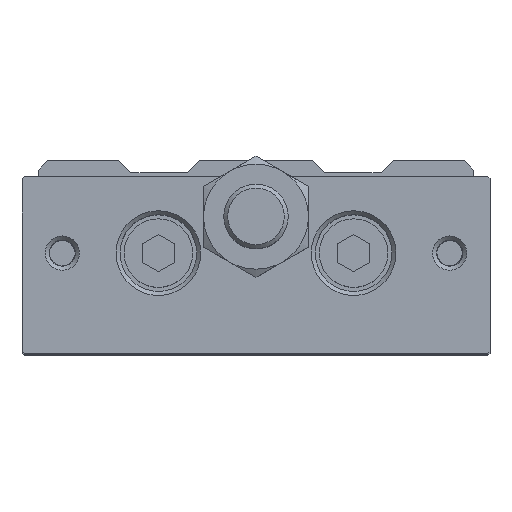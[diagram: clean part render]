
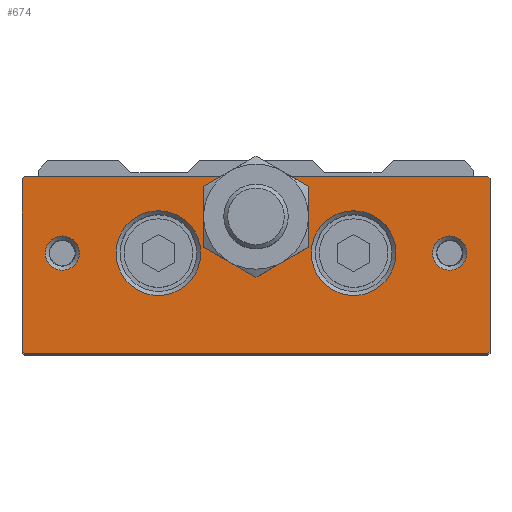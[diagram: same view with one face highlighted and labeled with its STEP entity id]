
A CAD part, top view. The second image highlights one B-rep face of the part: STEP entity #674.
In plain terms, the highlighted planar face has unit normal (0, 0, 1).
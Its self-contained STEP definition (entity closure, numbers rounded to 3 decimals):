
#455=CARTESIAN_POINT('',(-28.7,-13.,93.5));
#456=VERTEX_POINT('',#455);
#463=CARTESIAN_POINT('',(-29.,-12.7,93.5));
#464=VERTEX_POINT('',#463);
#465=CARTESIAN_POINT('',(-28.7,-13.,93.5));
#466=DIRECTION('',(-0.707,0.707,0.0));
#467=VECTOR('',#466,0.424);
#468=LINE('',#465,#467);
#469=EDGE_CURVE('',#456,#464,#468,.T.);
#486=CARTESIAN_POINT('',(-29.,8.7,93.5));
#487=VERTEX_POINT('',#486);
#488=CARTESIAN_POINT('',(-29.,8.7,93.5));
#489=DIRECTION('',(0.0,-1.0,0.0));
#490=VECTOR('',#489,21.4);
#491=LINE('',#488,#490);
#492=EDGE_CURVE('',#487,#464,#491,.T.);
#522=CARTESIAN_POINT('',(0.0,-13.,93.5));
#523=DIRECTION('',(0.0,0.0,1.0));
#524=DIRECTION('',(1.0,0.0,0.0));
#525=AXIS2_PLACEMENT_3D('',#522,#523,#524);
#526=PLANE('',#525);
#527=ORIENTED_EDGE('',*,*,#469,.F.);
#528=CARTESIAN_POINT('',(28.7,-13.,93.5));
#529=VERTEX_POINT('',#528);
#530=CARTESIAN_POINT('',(-28.7,-13.,93.5));
#531=DIRECTION('',(1.0,0.0,0.0));
#532=VECTOR('',#531,57.4);
#533=LINE('',#530,#532);
#534=EDGE_CURVE('',#456,#529,#533,.T.);
#535=ORIENTED_EDGE('',*,*,#534,.T.);
#536=CARTESIAN_POINT('',(29.,-12.7,93.5));
#537=VERTEX_POINT('',#536);
#538=CARTESIAN_POINT('',(29.,-12.7,93.5));
#539=DIRECTION('',(-0.707,-0.707,0.0));
#540=VECTOR('',#539,0.424);
#541=LINE('',#538,#540);
#542=EDGE_CURVE('',#537,#529,#541,.T.);
#543=ORIENTED_EDGE('',*,*,#542,.F.);
#544=CARTESIAN_POINT('',(29.,8.7,93.5));
#545=VERTEX_POINT('',#544);
#546=CARTESIAN_POINT('',(29.,-12.7,93.5));
#547=DIRECTION('',(0.0,1.0,0.0));
#548=VECTOR('',#547,21.4);
#549=LINE('',#546,#548);
#550=EDGE_CURVE('',#537,#545,#549,.T.);
#551=ORIENTED_EDGE('',*,*,#550,.T.);
#552=CARTESIAN_POINT('',(28.7,9.,93.5));
#553=VERTEX_POINT('',#552);
#554=CARTESIAN_POINT('',(28.7,9.,93.5));
#555=DIRECTION('',(0.707,-0.707,0.0));
#556=VECTOR('',#555,0.424);
#557=LINE('',#554,#556);
#558=EDGE_CURVE('',#553,#545,#557,.T.);
#559=ORIENTED_EDGE('',*,*,#558,.F.);
#560=CARTESIAN_POINT('',(4.153,9.,93.5));
#561=VERTEX_POINT('',#560);
#562=CARTESIAN_POINT('',(28.7,9.,93.5));
#563=DIRECTION('',(-1.0,0.0,0.0));
#564=VECTOR('',#563,24.547);
#565=LINE('',#562,#564);
#566=EDGE_CURVE('',#553,#561,#565,.T.);
#567=ORIENTED_EDGE('',*,*,#566,.T.);
#568=CARTESIAN_POINT('',(6.5,4.,93.5));
#569=VERTEX_POINT('',#568);
#570=CARTESIAN_POINT('',(0.0,4.,93.5));
#571=DIRECTION('',(0.0,0.0,1.0));
#572=DIRECTION('',(0.0,1.0,0.0));
#573=AXIS2_PLACEMENT_3D('',#570,#571,#572);
#574=CIRCLE('',#573,6.5);
#575=EDGE_CURVE('',#569,#561,#574,.T.);
#576=ORIENTED_EDGE('',*,*,#575,.F.);
#577=CARTESIAN_POINT('',(3.25,-1.629,93.5));
#578=VERTEX_POINT('',#577);
#579=CARTESIAN_POINT('',(0.0,4.,93.5));
#580=DIRECTION('',(0.0,0.0,1.0));
#581=DIRECTION('',(0.0,1.0,0.0));
#582=AXIS2_PLACEMENT_3D('',#579,#580,#581);
#583=CIRCLE('',#582,6.5);
#584=EDGE_CURVE('',#578,#569,#583,.T.);
#585=ORIENTED_EDGE('',*,*,#584,.F.);
#586=CARTESIAN_POINT('',(-3.25,-1.629,93.5));
#587=VERTEX_POINT('',#586);
#588=CARTESIAN_POINT('',(0.0,4.,93.5));
#589=DIRECTION('',(0.0,0.0,1.0));
#590=DIRECTION('',(0.0,1.0,0.0));
#591=AXIS2_PLACEMENT_3D('',#588,#589,#590);
#592=CIRCLE('',#591,6.5);
#593=EDGE_CURVE('',#587,#578,#592,.T.);
#594=ORIENTED_EDGE('',*,*,#593,.F.);
#595=CARTESIAN_POINT('',(-6.5,4.,93.5));
#596=VERTEX_POINT('',#595);
#597=CARTESIAN_POINT('',(0.0,4.,93.5));
#598=DIRECTION('',(0.0,0.0,1.0));
#599=DIRECTION('',(0.0,1.0,0.0));
#600=AXIS2_PLACEMENT_3D('',#597,#598,#599);
#601=CIRCLE('',#600,6.5);
#602=EDGE_CURVE('',#596,#587,#601,.T.);
#603=ORIENTED_EDGE('',*,*,#602,.F.);
#604=CARTESIAN_POINT('',(-4.153,9.,93.5));
#605=VERTEX_POINT('',#604);
#606=CARTESIAN_POINT('',(0.0,4.,93.5));
#607=DIRECTION('',(0.0,0.0,1.0));
#608=DIRECTION('',(0.0,1.0,0.0));
#609=AXIS2_PLACEMENT_3D('',#606,#607,#608);
#610=CIRCLE('',#609,6.5);
#611=EDGE_CURVE('',#605,#596,#610,.T.);
#612=ORIENTED_EDGE('',*,*,#611,.F.);
#613=CARTESIAN_POINT('',(-28.7,9.,93.5));
#614=VERTEX_POINT('',#613);
#615=CARTESIAN_POINT('',(-4.153,9.,93.5));
#616=DIRECTION('',(-1.0,0.0,0.0));
#617=VECTOR('',#616,24.547);
#618=LINE('',#615,#617);
#619=EDGE_CURVE('',#605,#614,#618,.T.);
#620=ORIENTED_EDGE('',*,*,#619,.T.);
#621=CARTESIAN_POINT('',(-29.,8.7,93.5));
#622=DIRECTION('',(0.707,0.707,0.0));
#623=VECTOR('',#622,0.424);
#624=LINE('',#621,#623);
#625=EDGE_CURVE('',#487,#614,#624,.T.);
#626=ORIENTED_EDGE('',*,*,#625,.F.);
#627=ORIENTED_EDGE('',*,*,#492,.T.);
#628=EDGE_LOOP('',(#527,#535,#543,#551,#559,#567,#576,#585,#594,#603,#612,#620,#626,#627));
#629=FACE_OUTER_BOUND('',#628,.T.);
#630=CARTESIAN_POINT('',(-21.879,-0.5,93.5));
#631=VERTEX_POINT('',#630);
#632=CARTESIAN_POINT('',(-24.,-0.5,93.5));
#633=DIRECTION('',(0.0,0.0,1.0));
#634=DIRECTION('',(-1.0,0.0,0.0));
#635=AXIS2_PLACEMENT_3D('',#632,#633,#634);
#636=CIRCLE('',#635,2.121);
#637=EDGE_CURVE('',#631,#631,#636,.T.);
#638=ORIENTED_EDGE('',*,*,#637,.F.);
#639=EDGE_LOOP('',(#638));
#640=FACE_BOUND('',#639,.T.);
#641=CARTESIAN_POINT('',(26.121,-0.5,93.5));
#642=VERTEX_POINT('',#641);
#643=CARTESIAN_POINT('',(24.,-0.5,93.5));
#644=DIRECTION('',(0.0,0.0,1.0));
#645=DIRECTION('',(-1.0,0.0,0.0));
#646=AXIS2_PLACEMENT_3D('',#643,#644,#645);
#647=CIRCLE('',#646,2.121);
#648=EDGE_CURVE('',#642,#642,#647,.T.);
#649=ORIENTED_EDGE('',*,*,#648,.F.);
#650=EDGE_LOOP('',(#649));
#651=FACE_BOUND('',#650,.T.);
#652=CARTESIAN_POINT('',(-6.85,-0.5,93.5));
#653=VERTEX_POINT('',#652);
#654=CARTESIAN_POINT('',(-12.1,-0.5,93.5));
#655=DIRECTION('',(0.0,0.0,1.0));
#656=DIRECTION('',(-1.0,0.0,0.0));
#657=AXIS2_PLACEMENT_3D('',#654,#655,#656);
#658=CIRCLE('',#657,5.25);
#659=EDGE_CURVE('',#653,#653,#658,.T.);
#660=ORIENTED_EDGE('',*,*,#659,.F.);
#661=EDGE_LOOP('',(#660));
#662=FACE_BOUND('',#661,.T.);
#663=CARTESIAN_POINT('',(17.35,-0.5,93.5));
#664=VERTEX_POINT('',#663);
#665=CARTESIAN_POINT('',(12.1,-0.5,93.5));
#666=DIRECTION('',(0.0,0.0,1.0));
#667=DIRECTION('',(-1.0,0.0,0.0));
#668=AXIS2_PLACEMENT_3D('',#665,#666,#667);
#669=CIRCLE('',#668,5.25);
#670=EDGE_CURVE('',#664,#664,#669,.T.);
#671=ORIENTED_EDGE('',*,*,#670,.F.);
#672=EDGE_LOOP('',(#671));
#673=FACE_BOUND('',#672,.T.);
#674=ADVANCED_FACE('',(#629,#640,#651,#662,#673),#526,.T.);
